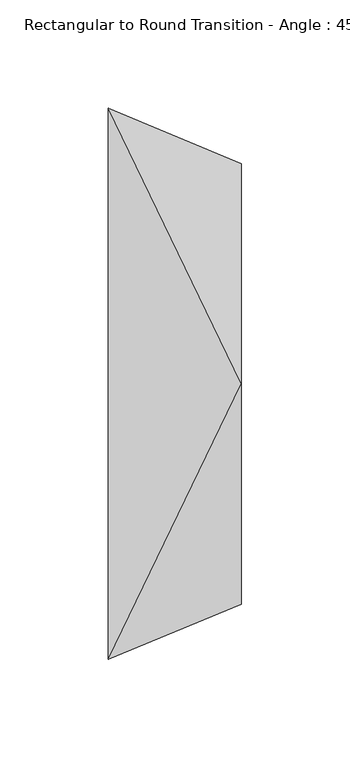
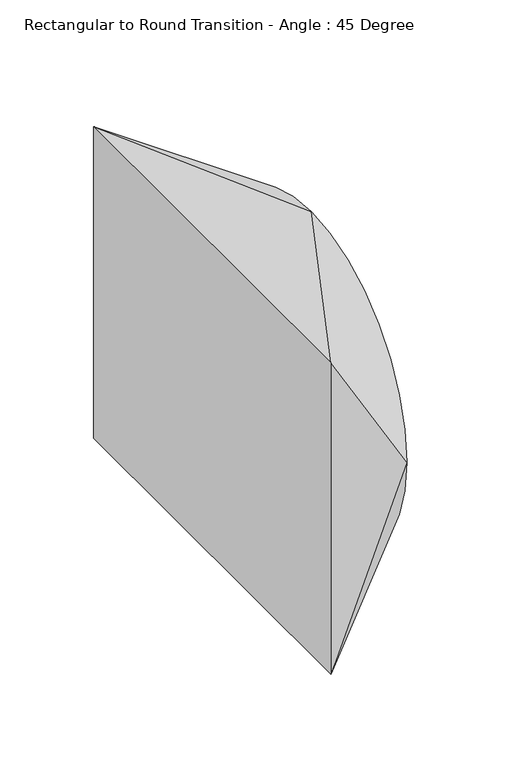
"""IFC4 building model written with IfcOpenShell, lengths in millimetres: duct fitting geometry, Rectangular to Round Transition - Angle : 45 Degree."""

from ifc_helpers import new_model, si_unit, frame, origin, place, context, project, spatial, circle_curve, source, transform, mapped, element, save
from ifc_brep_helpers import plane_surface, spline_surface, advanced_brep


def rectangular_to_round_transition_angle_45_degree_e9430680(model_context):
    return source(origin(), model_context, "Body", "AdvancedBrep", [
        advanced_brep(
        [(61.3210245, 0.0, 101.6), (61.3210245, -101.6, 0.0), (61.3210245, 0.0, -101.6), (61.3210245, 101.6, 0.0), (0.0, -127.0, 101.6), (0.0, 127.0, 101.6), (0.0, 127.0, -101.6), (0.0, -127.0, -101.6)],
        [
            (0, 1, circle_curve(frame((61.3210245, 0.0, 0.0), z_axis=(1.0, 0.0, 0.0), x_axis=(0.0, 1.0, 0.0)), 101.6)),
            (1, 2, circle_curve(frame((61.3210245, 0.0, 0.0), z_axis=(1.0, 0.0, 0.0), x_axis=(0.0, 1.0, 0.0)), 101.6)),
            (2, 3, circle_curve(frame((61.3210245, 0.0, 0.0), z_axis=(1.0, 0.0, 0.0), x_axis=(0.0, 1.0, 0.0)), 101.6)),
            (3, 0, circle_curve(frame((61.3210245, 0.0, 0.0), z_axis=(1.0, 0.0, 0.0), x_axis=(0.0, 1.0, 0.0)), 101.6)),
            (4, 5),
            (5, 6),
            (6, 7),
            (7, 4),
            (0, 4),
            (4, 1),
            (7, 1),
            (7, 2),
            (6, 2),
            (6, 3),
            (5, 3),
            (5, 0),
        ],
        [
            plane_surface(frame((61.3210245, 0.0, 0.0), z_axis=(1.0, 0.0, 0.0), x_axis=(0.0, 0.0, -1.0))),
            plane_surface(frame((0.0, 0.0, 0.0), z_axis=(-1.0, 0.0, 0.0), x_axis=(0.0, 0.0, -1.0))),
            spline_surface(2, 1, [[(0.0, -127.0, 101.6), (61.3210245, 0.0, 101.6)], [(0.0, -127.0, 101.6), (61.3210245, -101.6, 101.6)], [(0.0, -127.0, 101.6), (61.3210245, -101.6, 0.0)]], [3, 3], [2, 2], [0.0, 1.0], [0.0, 1.0], weights=[[1.0, 1.0], [0.7071067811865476, 0.7071067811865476], [1.0, 1.0]]),
            plane_surface(frame((0.0, -127.0, 0.0), z_axis=(0.3826834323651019, -0.9238795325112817, 0.0), x_axis=(0.0, 0.0, -1.0))),
            spline_surface(2, 1, [[(0.0, -127.0, -101.6), (61.3210245, -101.6, 0.0)], [(0.0, -127.0, -101.6), (61.3210245, -101.6, -101.6)], [(0.0, -127.0, -101.6), (61.3210245, 0.0, -101.6)]], [3, 3], [2, 2], [0.0, 1.0], [0.0, 1.0], weights=[[1.0, 1.0], [0.7071067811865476, 0.7071067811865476], [1.0, 1.0]]),
            plane_surface(frame((0.0, 0.0, -101.6), z_axis=(0.0, 0.0, -1.0), x_axis=(0.0, 1.0, 0.0))),
            spline_surface(2, 1, [[(0.0, 127.0, -101.6), (61.3210245, 0.0, -101.6)], [(0.0, 127.0, -101.6), (61.3210245, 101.6, -101.6)], [(0.0, 127.0, -101.6), (61.3210245, 101.6, 0.0)]], [3, 3], [2, 2], [0.0, 1.0], [0.0, 1.0], weights=[[1.0, 1.0], [0.7071067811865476, 0.7071067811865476], [1.0, 1.0]]),
            plane_surface(frame((0.0, 127.0, 0.0), z_axis=(0.382683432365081, 0.9238795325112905, 0.0), x_axis=(0.0, 0.0, 1.0))),
            spline_surface(2, 1, [[(0.0, 127.0, 101.6), (61.3210245, 101.6, 0.0)], [(0.0, 127.0, 101.6), (61.3210245, 101.6, 101.6)], [(0.0, 127.0, 101.6), (61.3210245, 0.0, 101.6)]], [3, 3], [2, 2], [0.0, 1.0], [0.0, 1.0], weights=[[1.0, 1.0], [0.7071067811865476, 0.7071067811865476], [1.0, 1.0]]),
            plane_surface(frame((0.0, 0.0, 101.6), z_axis=(0.0, 0.0, 1.0), x_axis=(0.0, -1.0, 0.0))),
        ],
        [
            (0, [[1, 2, 3, 4]]),
            (1, [[5, 6, 7, 8]]),
            (2, [[-1, 9, 10]]),
            (3, [[-8, 11, -10]]),
            (4, [[-2, -11, 12]]),
            (5, [[-7, 13, -12]]),
            (6, [[-3, -13, 14]]),
            (7, [[-6, 15, -14]]),
            (8, [[-4, -15, 16]]),
            (9, [[-5, -9, -16]]),
        ],
    ),
    ])


if __name__ == "__main__":
    model = new_model("IFC4")
    model_context = context("Model", 3, world=origin())
    ifc_project = project(units=[si_unit("LENGTHUNIT", "METRE", prefix="MILLI")], contexts=[model_context])
    site = spatial("IfcSite", under=ifc_project)
    building = spatial("IfcBuilding", under=site)
    placement = place(None, origin())
    rectangular_to_round_transition_angle_45_degree_shape = rectangular_to_round_transition_angle_45_degree_e9430680(model_context)
    element("IfcDuctFitting", 1, ObjectType="Rectangular to Round Transition - Angle : 45 Degree", at=placement, inside=building, context=model_context, shape_type="MappedRepresentation", body=[
        mapped(rectangular_to_round_transition_angle_45_degree_shape, transform((0.0, 0.0, 0.0), x_axis=(1.0, 0.0, 0.0), y_axis=(0.0, 1.0, 0.0), z_axis=(0.0, 0.0, 1.0))),
    ])
    save(model, "model.ifc")
